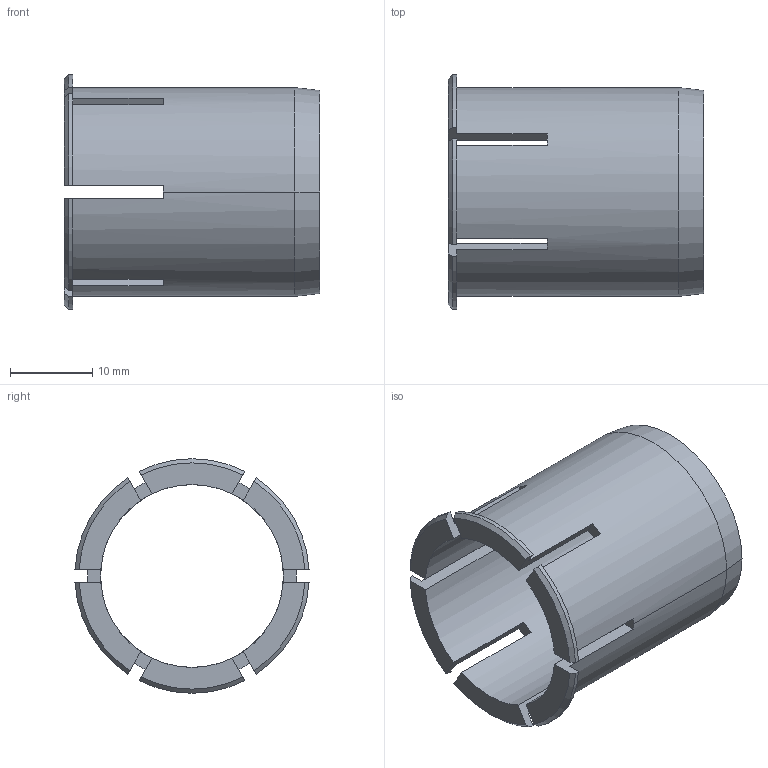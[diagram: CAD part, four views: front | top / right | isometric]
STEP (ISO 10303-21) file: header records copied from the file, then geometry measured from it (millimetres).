
FILE_DESCRIPTION(('STEP AP214'),'1');
FILE_NAME('REDUZIEREINSATZ HS35-22.225-11078654.stp','2018-09-24T08:56:06',(' '),(' '),'Spatial InterOp 3D',' ',' ');
FILE_SCHEMA(('automotive_design'));
Length unit declared in the file: millimetre
Products named in the file (1): 1
Bounding box: 31 x 28.46 x 28.5 mm (x, y, z)
Volume: 3561.3 mm3; surface area: 5079.4 mm2
Topology: 1 solids, 1 shells, 49 faces, 142 edges, 94 vertices
Faces by surface type: plane 31, cylinder 10, cone 8
Entity records: 2040 total; most frequent: CARTESIAN_POINT 310, ORIENTED_EDGE 284, DIRECTION 282, EDGE_CURVE 142, AXIS2_PLACEMENT_3D 102, VERTEX_POINT 94, LINE 78, VECTOR 78
